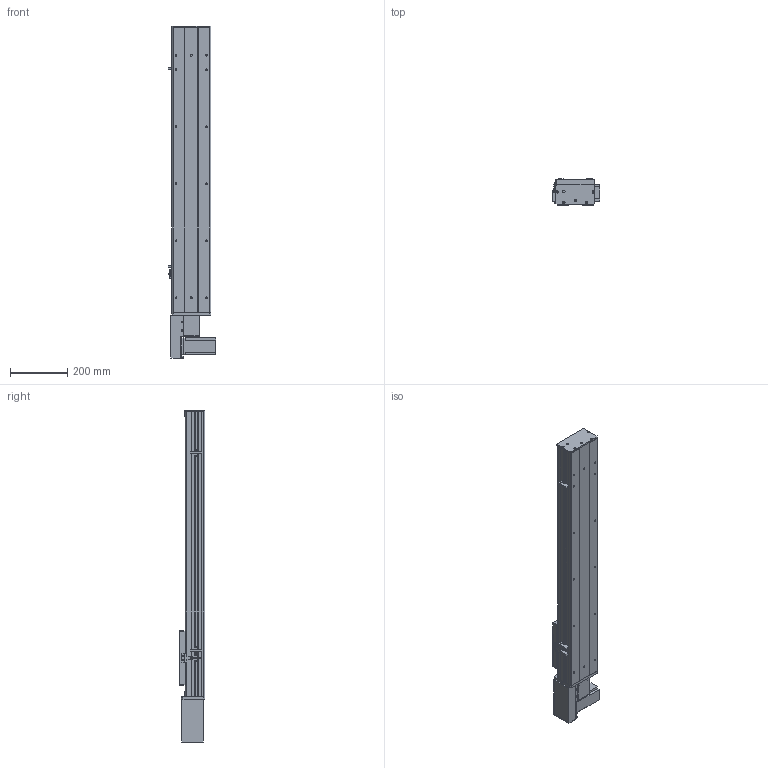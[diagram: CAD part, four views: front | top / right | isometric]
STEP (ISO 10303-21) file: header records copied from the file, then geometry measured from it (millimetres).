
FILE_DESCRIPTION (( 'STEP AP203' ), '1' );
FILE_NAME ('Y135CB-D90-S700-BR-P400W.STEP', '2020-02-18T02:17:11', ( '微软用户' ), ( '微软中国' ), 'SwSTEP 2.0', 'SolidWorks 2017', '' );
FILE_SCHEMA (( 'CONFIG_CONTROL_DESIGN' ));
Length unit declared in the file: millimetre
Products named in the file (18): 5C--俋欶; 0B-源倛裔啣; C-雄赽釱--; 0B-萇儂楊擘啣; Y10B--々湍喘謫眊--666; san松下电机400不带刹车----; Y135CB-耜裔; Y135CB-D90-S700-BR-P400W; 5CB --掛极耜裔啣-; 135CB---遴掛极.-; C-詩湍揤踡え-陔; 35CB---喘謫眊楊擘啣; 135CB--詩湍-CE; Y10B-耜蚾蟀諉啣----; Y100-135俋离換覜ん--; Y俋欶BR----; Y135C-陔俋离換覜結え-; 0B-埴倛裔啣
Assembly tree (21 placements, depth 2):
  Y135CB-D90-S700-BR-P400W
    Y135CB-耜裔
    135CB---遴掛极.-
    35CB---喘謫眊楊擘啣
    Y10B-耜蚾蟀諉啣----
    Y俋欶BR----
    0B-埴倛裔啣
    0B-源倛裔啣
    0B-萇儂楊擘啣
    san松下电机400不带刹车----
    5CB --掛极耜裔啣-  x2
    C-詩湍揤踡え-陔  x2
    135CB--詩湍-CE
    Y100-135俋离換覜ん--  x3
    Y135C-陔俋离換覜結え-
    5C--俋欶
    C-雄赽釱--
    Y10B--々湍喘謫眊--666
Bounding box: 167.5 x 91 x 1164.5 mm (x, y, z)
Volume: 3608115.1 mm3; surface area: 1404620.6 mm2
Topology: 21 solids, 21 shells, 941 faces, 2509 edges, 1662 vertices
Faces by surface type: cylinder 467, plane 458, cone 16
Entity records: 29139 total; most frequent: DIRECTION 4837, CARTESIAN_POINT 4768, ORIENTED_EDGE 4494, EDGE_CURVE 2247, AXIS2_PLACEMENT_3D 1759, VERTEX_POINT 1490, VECTOR 1319, LINE 1319
